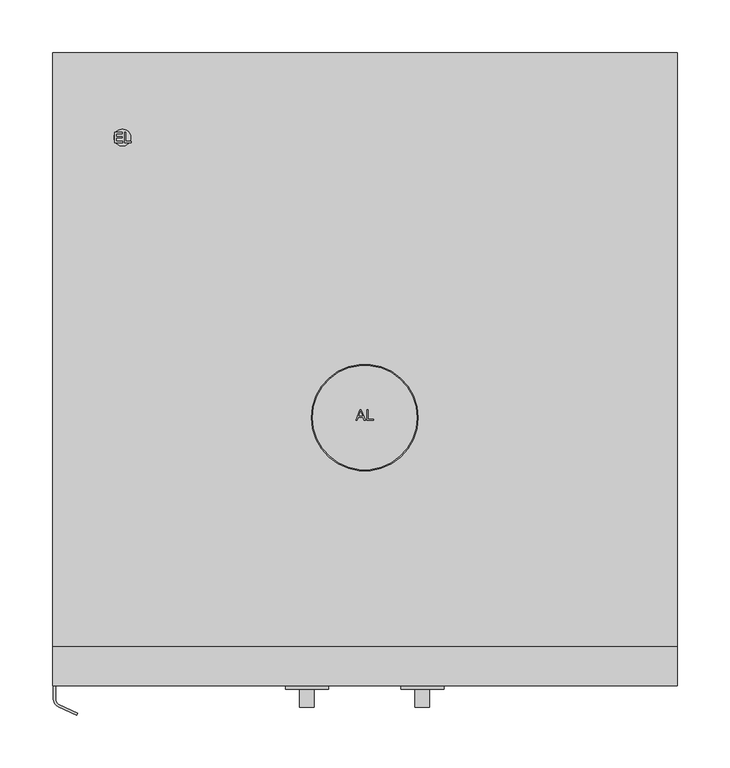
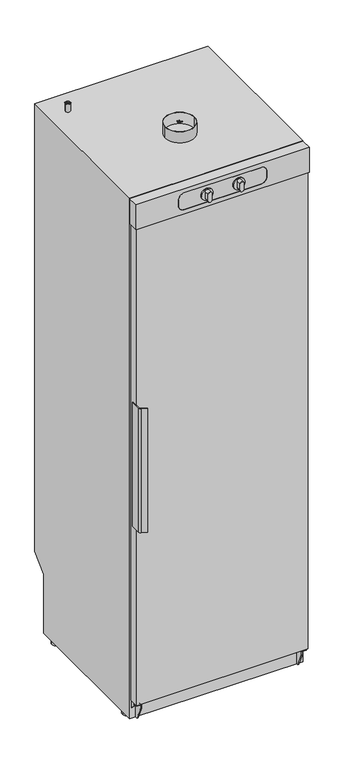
"""IFC4 building model written with IfcOpenShell, lengths in millimetres: proxy geometry, 12173370_EU_EasyDryer1900Extreme : 52190001_EU_12173370_EasyDryer1900Extreme."""

from ifc_helpers import new_model, si_unit, point, frame, frame_2d, origin, origin_with_axes, place, context, project, spatial, polyline, circle_curve, trimmed, segment, composite_curve, outline, extrude, source, transform, mapped, element, save
from ifc_brep_helpers import plane_surface, cylinder_surface, revolved_surface, advanced_brep


def specialty_equipment_527cdb43(model_context):
    return source(origin(), model_context, "Body", "SolidModel", [
        advanced_brep(
        [(297.5, -602.7076068, 1900.064398), (-297.5, -602.7076068, 1900.064398), (-297.5, -602.7076068, 1810.0799917), (297.5, -602.7076068, 1810.0799917), (-132.2999878, -602.7076068, 1885.0721695), (131.7000122, -602.7076068, 1885.0721695), (151.7000122, -602.7076068, 1865.0721695), (151.7000122, -602.7076068, 1845.0722442), (131.7000122, -602.7076068, 1825.0722442), (-132.2999878, -602.7076068, 1825.0722442), (-152.2999878, -602.7076068, 1845.0722442), (-152.2999878, -602.7076068, 1865.0721695), (297.5, -565.0003471, 1900.064398), (297.5, -565.0003471, 1810.0799917), (-297.5, -565.0003471, 1810.0799917), (-297.5, -565.0003471, 1900.064398), (131.7000122, -600.0, 1885.0721695), (-132.2999878, -600.0, 1885.0721695), (-152.2999878, -600.0, 1865.0721695), (-152.2999878, -600.0, 1845.0722442), (-132.2999878, -600.0, 1825.0722442), (131.7000122, -600.0, 1825.0722442), (151.7000122, -600.0, 1845.0722442), (151.7000122, -600.0, 1865.0721695)],
        [
            (0, 1),
            (1, 2),
            (2, 3),
            (3, 0),
            (4, 5),
            (5, 6, circle_curve(frame((131.7000122, -602.7076068, 1865.0721695), z_axis=(0.0, 1.0, 0.0), x_axis=(1.0, 0.0, 0.0)), 20.0)),
            (6, 7),
            (7, 8, circle_curve(frame((131.7000122, -602.7076068, 1845.0722442), z_axis=(0.0, 1.0, 0.0), x_axis=(1.0, 0.0, 0.0)), 20.0)),
            (8, 9),
            (9, 10, circle_curve(frame((-132.2999878, -602.7076068, 1845.0722442), z_axis=(0.0, 1.0, 0.0), x_axis=(1.0, 0.0, 0.0)), 20.0)),
            (10, 11),
            (11, 4, circle_curve(frame((-132.2999878, -602.7076068, 1865.0721695), z_axis=(0.0, 1.0, 0.0), x_axis=(1.0, 0.0, 0.0)), 20.0)),
            (12, 13),
            (13, 14),
            (14, 15),
            (15, 12),
            (0, 12),
            (15, 1),
            (14, 2),
            (13, 3),
            (16, 17),
            (17, 18, circle_curve(frame((-132.2999878, -600.0, 1865.0721695), z_axis=(0.0, -1.0, 0.0), x_axis=(1.0, 0.0, 0.0)), 20.0)),
            (18, 19),
            (19, 20, circle_curve(frame((-132.2999878, -600.0, 1845.0722442), z_axis=(0.0, -1.0, 0.0), x_axis=(1.0, 0.0, 0.0)), 20.0)),
            (20, 21),
            (21, 22, circle_curve(frame((131.7000122, -600.0, 1845.0722442), z_axis=(0.0, -1.0, 0.0), x_axis=(1.0, 0.0, 0.0)), 20.0)),
            (22, 23),
            (23, 16, circle_curve(frame((131.7000122, -600.0, 1865.0721695), z_axis=(0.0, -1.0, 0.0), x_axis=(1.0, 0.0, 0.0)), 20.0)),
            (16, 5),
            (4, 17),
            (11, 18),
            (10, 19),
            (9, 20),
            (8, 21),
            (7, 22),
            (6, 23),
        ],
        [
            plane_surface(frame((-258.8606423, -602.7076068, 1900.064398), z_axis=(0.0, -1.0, 0.0), x_axis=(-1.0, 0.0, 0.0))),
            plane_surface(frame((-258.8606423, -565.0003471, 1900.064398), z_axis=(0.0, 1.0, 0.0), x_axis=(1.0, 0.0, 0.0))),
            plane_surface(frame((297.5, -602.7076068, 1900.064398), z_axis=(0.0, 0.0, 1.0), x_axis=(0.0, 1.0, 0.0))),
            plane_surface(frame((-297.5, -602.7076068, 1900.064398), z_axis=(-1.0, 0.0, 0.0), x_axis=(0.0, 1.0, 0.0))),
            plane_surface(frame((-297.5, -602.7076068, 1810.0799917), z_axis=(0.0, 0.0, -1.0), x_axis=(0.0, 1.0, 0.0))),
            plane_surface(frame((297.5, -602.7076068, 1810.0799917), z_axis=(1.0, 0.0, 0.0), x_axis=(0.0, 1.0, 0.0))),
            plane_surface(frame((-141.7059758, -600.0, 1885.0721695), z_axis=(0.0, -1.0, 0.0), x_axis=(1.0, 0.0, 0.0))),
            plane_surface(frame((131.7000122, -602.7076068, 1885.0721695), z_axis=(0.0, 0.0, -1.0), x_axis=(0.0, 1.0, 0.0))),
            revolved_surface(polyline([(-112.2999878, -602.7076068, 1865.0721695), (-112.2999878, -600.0, 1865.0721695)]), (-132.2999878, -600.0, 1865.0721695), (0.0, -1.0, 0.0)),
            plane_surface(frame((-152.2999878, -602.7076068, 1865.0721695), z_axis=(1.0, 0.0, 0.0), x_axis=(0.0, 1.0, 0.0))),
            revolved_surface(polyline([(-112.2999878, -602.7076068, 1845.0722442), (-112.2999878, -600.0, 1845.0722442)]), (-132.2999878, -600.0, 1845.0722442), (0.0, -1.0, 0.0)),
            plane_surface(frame((-132.2999878, -602.7076068, 1825.0722442), z_axis=(0.0, 0.0, 1.0), x_axis=(0.0, 1.0, 0.0))),
            revolved_surface(polyline([(151.7000122, -602.7076068, 1845.0722442), (151.7000122, -600.0, 1845.0722442)]), (131.7000122, -600.0, 1845.0722442), (0.0, -1.0, 0.0)),
            plane_surface(frame((151.7000122, -602.7076068, 1845.0722442), z_axis=(-1.0, 0.0, 0.0), x_axis=(0.0, 1.0, 0.0))),
            revolved_surface(polyline([(151.7000122, -602.7076068, 1865.0721695), (151.7000122, -600.0, 1865.0721695)]), (131.7000122, -600.0, 1865.0721695), (0.0, -1.0, 0.0)),
        ],
        [
            (0, [[1, 2, 3, 4], [5, 6, 7, 8, 9, 10, 11, 12]]),
            (1, [[13, 14, 15, 16]]),
            (2, [[-1, 17, -16, 18]]),
            (3, [[-2, -18, -15, 19]]),
            (4, [[-3, -19, -14, 20]]),
            (5, [[-4, -20, -13, -17]]),
            (6, [[21, 22, 23, 24, 25, 26, 27, 28]]),
            (7, [[-21, 29, -5, 30]]),
            (8, [[-22, -30, -12, 31]]),
            (9, [[-23, -31, -11, 32]]),
            (10, [[-24, -32, -10, 33]]),
            (11, [[-25, -33, -9, 34]]),
            (12, [[-26, -34, -8, 35]]),
            (13, [[-27, -35, -7, 36]]),
            (14, [[-28, -36, -6, -29]]),
        ],
    ),
        extrude(outline(polyline([(294.0999571, -600.0), (-293.899981, -600.0), (-293.899981, -565.0003471), (294.0999571, -565.0003471), (294.0999571, -600.0)])), frame((0.0, 0.0, 80.0436301), z_axis=(0.0, 0.0, 1.0), x_axis=(1.0, 0.0, 0.0)), (0.0, 0.0, 1.0), 1729.6063473),
        extrude(outline(polyline([(-565.0003471, 1900.9000792), (0.0, 1900.9000792), (0.0, 277.3003376), (-52.1003198, 225.2000178), (-52.1003198, 11.4987492), (-565.0003471, 11.4987492), (-565.0003471, 1900.9000792)])), frame((-297.5, 0.0, 0.0), z_axis=(1.0, 0.0, 0.0), x_axis=(0.0, 1.0, 0.0)), (0.0, 0.0, 1.0), 595.0),
        extrude(outline(composite_curve([segment(trimmed(circle_curve(frame_2d((286.0020523, -589.7003232)), 7.5125776), [point((278.4894747, -589.7003232))], [point((293.5146299, -589.7003232))], False, "CARTESIAN"), True, "CONTINUOUS"), segment(trimmed(circle_curve(frame_2d((286.0020523, -589.7003232)), 7.5125776), [point((293.5146299, -589.7003232))], [point((278.4894747, -589.7003232))], False, "CARTESIAN"), True, "CONTINUOUS")], self_intersect=False)), frame((0.0, 0.0, 76.4449017), z_axis=(0.0, 0.0, 1.0), x_axis=(1.0, 0.0, 0.0)), (0.0, 0.0, 1.0), 3.5987284),
        extrude(outline(polyline([(-238.177238, -85.8998575), (-238.177238, -75.8542265), (-230.9569407, -75.8542265), (-230.9569407, -77.1099303), (-236.9215341, -77.1099303), (-236.9215341, -80.092227), (-231.2708667, -80.092227), (-231.2708667, -81.3479309), (-236.9215341, -81.3479309), (-236.9215341, -84.6441536), (-230.7999777, -84.6441536), (-230.7999777, -85.8998575), (-238.177238, -85.8998575)])), frame((0.0, 0.0, 1930.064398), z_axis=(0.0, 0.0, 1.0), x_axis=(1.0, 0.0, 0.0)), (0.0, 0.0, 1.0), 1.0),
        extrude(outline(polyline([(-228.9164219, -85.8998575), (-228.9164219, -75.8542265), (-227.660718, -75.8542265), (-227.660718, -84.6441536), (-222.6379025, -84.6441536), (-222.6379025, -85.8998575), (-228.9164219, -85.8998575)])), frame((0.0, 0.0, 1930.064398), z_axis=(0.0, 0.0, 1.0), x_axis=(1.0, 0.0, 0.0)), (0.0, 0.0, 1.0), 1.0),
        extrude(outline(composite_curve([segment(trimmed(circle_curve(frame_2d((-230.7999777, -80.8998575)), 8.0), [point((-238.7999777, -80.8998575))], [point((-222.7999777, -80.8998575))], False, "CARTESIAN"), True, "CONTINUOUS"), segment(trimmed(circle_curve(frame_2d((-230.7999777, -80.8998575)), 8.0), [point((-222.7999777, -80.8998575))], [point((-238.7999777, -80.8998575))], False, "CARTESIAN"), True, "CONTINUOUS")], self_intersect=False)), frame((0.0, 0.0, 1900.064398), z_axis=(0.0, 0.0, 1.0), x_axis=(1.0, 0.0, 0.0)), (0.0, 0.0, 1.0), 30.0),
        extrude(outline(polyline([(-8.547125, -350.2211675), (-4.5372113, -340.1755365), (-3.4679009, -340.1755365), (0.5420128, -350.2211675), (-0.7848149, -350.2211675), (-1.9350593, -347.0819078), (-6.0725055, -347.0819078), (-7.2202973, -350.2211675), (-8.547125, -350.2211675)]), holes=[polyline([(-5.6114267, -345.8262039), (-2.3936855, -345.8262039), (-3.2986752, -343.3564895), (-4.0025561, -341.4312404), (-4.6279555, -343.1406654), (-5.6114267, -345.8262039)])]), frame((0.0, 0.0, 1941.7810861), z_axis=(0.0, 0.0, 1.0), x_axis=(1.0, 0.0, 0.0)), (0.0, 0.0, 1.0), 1.0),
        extrude(outline(polyline([(1.8835558, -350.2211675), (1.8835558, -340.1755365), (3.1392597, -340.1755365), (3.1392597, -348.9654636), (8.1620752, -348.9654636), (8.1620752, -350.2211675), (1.8835558, -350.2211675)])), frame((0.0, 0.0, 1941.7810861), z_axis=(0.0, 0.0, 1.0), x_axis=(1.0, 0.0, 0.0)), (0.0, 0.0, 1.0), 1.0),
        extrude(outline(composite_curve([segment(trimmed(circle_curve(frame_2d((0.0, -347.5288095)), 50.6924834), [point((-50.6924834, -347.5288095))], [point((50.6924834, -347.5288095))], False, "CARTESIAN"), True, "CONTINUOUS"), segment(trimmed(circle_curve(frame_2d((0.0, -347.5288095)), 50.6924834), [point((50.6924834, -347.5288095))], [point((-50.6924834, -347.5288095))], False, "CARTESIAN"), True, "CONTINUOUS")], self_intersect=False), holes=[composite_curve([segment(trimmed(circle_curve(frame_2d((0.0, -347.5288095)), 49.6924834), [point((-49.6924834, -347.5288095))], [point((49.6924834, -347.5288095))], True, "CARTESIAN"), True, "CONTINUOUS"), segment(trimmed(circle_curve(frame_2d((0.0, -347.5288095)), 49.6924834), [point((49.6924834, -347.5288095))], [point((-49.6924834, -347.5288095))], True, "CARTESIAN"), True, "CONTINUOUS")], self_intersect=False)]), frame((0.0, 0.0, 1900.064398), z_axis=(0.0, 0.0, 1.0), x_axis=(1.0, 0.0, 0.0)), (0.0, 0.0, 1.0), 41.7166881),
        extrude(outline(composite_curve([segment(trimmed(circle_curve(frame_2d((-575.498868, 69.60773)), 5.496908), [point((-579.4509333, 65.7871047))], [point((-580.995776, 69.60773))], False, "CARTESIAN"), True, "CONTINUOUS"), segment(polyline([(-580.995776, 69.60773), (-580.995776, 73.4499866), (-565.0003471, 73.4499866), (-565.0003471, 50.8487154), (-566.0003471, 50.8487154), (-579.4509333, 65.7871047)]), True, "CONTINUOUS")], self_intersect=False)), frame((288.7000118, 0.0, 0.0), z_axis=(1.0, 0.0, 0.0), x_axis=(0.0, 1.0, 0.0)), (0.0, 0.0, 1.0), 3.0000001),
        extrude(outline(composite_curve([segment(trimmed(circle_curve(frame_2d((-575.498868, 69.60773)), 5.496908), [point((-579.4509333, 65.7871047))], [point((-580.995776, 69.60773))], False, "CARTESIAN"), True, "CONTINUOUS"), segment(polyline([(-580.995776, 69.60773), (-580.995776, 73.4499866), (-565.0003471, 73.4499866), (-565.0003471, 50.8487154), (-566.0003471, 50.8487154), (-579.4509333, 65.7871047)]), True, "CONTINUOUS")], self_intersect=False)), frame((-291.7000119, 0.0, 0.0), z_axis=(1.0, 0.0, 0.0), x_axis=(0.0, 1.0, 0.0)), (0.0, 0.0, 1.0), 3.0000001),
        advanced_brep(
        [(278.236425, -595.4003518, 72.7307477), (279.0342218, -595.4003518, 73.4499866), (291.7734983, -595.4003518, 73.4499866), (291.7734983, -595.4003518, 76.4449017), (279.1678947, -595.4003518, 76.4449017), (275.2000004, -595.4003518, 73.0935621), (275.2000004, -595.4003518, 61.6631548), (278.236425, -595.4003518, 61.6631548), (275.2000004, -565.0003471, 73.0935621), (279.1678947, -565.0003471, 76.4449017), (291.7734983, -565.0003471, 76.4449017), (291.7734983, -565.0003471, 73.4499866), (279.0342218, -565.0003471, 73.4499866), (278.236425, -565.0003471, 72.7307477), (278.236425, -565.0003471, 13.4746147), (275.2000004, -565.0003471, 13.4746147), (278.236425, -574.369835, 13.4746147), (275.2000004, -574.369835, 13.4746147)],
        [
            (0, 1, circle_curve(frame((279.2254887, -595.4003518, 72.4357417), z_axis=(0.0, 1.0, 0.0), x_axis=(-1.0, 0.0, 0.0)), 1.0321219)),
            (1, 2),
            (2, 3),
            (3, 4),
            (4, 5, circle_curve(frame((279.1678947, -595.4003518, 72.4202929), z_axis=(0.0, -1.0, 0.0), x_axis=(-1.0, 0.0, 0.0)), 4.0246089)),
            (5, 6),
            (6, 7),
            (7, 0),
            (8, 9, circle_curve(frame((279.1678947, -565.0003471, 72.4202929), z_axis=(0.0, 1.0, 0.0), x_axis=(-1.0, 0.0, 0.0)), 4.0246089)),
            (9, 10),
            (10, 11),
            (11, 12),
            (12, 13, circle_curve(frame((279.2254887, -565.0003471, 72.4357417), z_axis=(0.0, -1.0, 0.0), x_axis=(-1.0, 0.0, 0.0)), 1.0321219)),
            (13, 14),
            (14, 15),
            (15, 8),
            (4, 9),
            (8, 5),
            (3, 10),
            (2, 11),
            (1, 12),
            (0, 13),
            (7, 16),
            (16, 14),
            (16, 17),
            (17, 15),
            (17, 6),
        ],
        [
            plane_surface(frame((275.2000004, -595.4003518, 13.4746147), z_axis=(0.0, -1.0, 0.0), x_axis=(0.0, 0.0, -1.0))),
            plane_surface(frame((275.2000004, -565.0003471, 13.4746147), z_axis=(0.0, 1.0, 0.0), x_axis=(0.0, 0.0, 1.0))),
            cylinder_surface(frame((279.1678947, -565.0003471, 72.4202929), z_axis=(0.0, -1.0, 0.0), x_axis=(-1.0, 0.0, 0.0)), 4.0246089),
            plane_surface(frame((291.7734983, -595.4003518, 76.4449017), z_axis=(0.0, 0.0, 1.0), x_axis=(0.0, 1.0, 0.0))),
            plane_surface(frame((291.7734983, -595.4003518, 73.4499866), z_axis=(1.0, 0.0, 0.0), x_axis=(0.0, 1.0, 0.0))),
            plane_surface(frame((279.0342218, -595.4003518, 73.4499866), z_axis=(0.0, 0.0, -1.0), x_axis=(0.0, 1.0, 0.0))),
            revolved_surface(polyline([(278.19336680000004, -565.0003471, 72.4357417), (278.19336680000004, -595.4003518, 72.4357417)]), (279.2254887, -565.0003471, 72.4357417), (0.0, 1.0, 0.0)),
            plane_surface(frame((278.236425, -595.4003518, 13.4746147), z_axis=(1.0, 0.0, 0.0), x_axis=(0.0, 1.0, 0.0))),
            plane_surface(frame((275.2000004, -595.4003518, 13.4746147), z_axis=(0.0, 0.0, -1.0), x_axis=(0.0, 1.0, 0.0))),
            plane_surface(frame((275.2000004, -595.4003518, 73.0935621), z_axis=(-1.0, 0.0, 0.0), x_axis=(0.0, 1.0, 0.0))),
            plane_surface(frame((362.4111715, -574.369835, 13.4746147), z_axis=(0.0, -0.9165199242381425, -0.39998903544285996), x_axis=(-1.0, 0.0, 0.0))),
        ],
        [
            (0, [[1, 2, 3, 4, 5, 6, 7, 8]]),
            (1, [[9, 10, 11, 12, 13, 14, 15, 16]]),
            (2, [[-5, 17, -9, 18]]),
            (3, [[-4, 19, -10, -17]]),
            (4, [[-3, 20, -11, -19]]),
            (5, [[-2, 21, -12, -20]]),
            (6, [[-1, 22, -13, -21]]),
            (7, [[-14, -22, -8, 23, 24]]),
            (8, [[-15, -24, 25, 26]]),
            (9, [[-16, -26, 27, -6, -18]]),
            (10, [[-7, -27, -25, -23]]),
        ],
    ),
        advanced_brep(
        [(-275.2000004, -595.4003518, 73.0935621), (-279.1678947, -595.4003518, 76.4449017), (-291.7734983, -595.4003518, 76.4449017), (-291.7734983, -595.4003518, 73.4499866), (-279.0342218, -595.4003518, 73.4499866), (-278.236425, -595.4003518, 72.7307477), (-278.236425, -595.4003518, 61.6631548), (-275.2000004, -595.4003518, 61.6631548), (-275.2000004, -565.0003471, 73.0935621), (-275.2000004, -565.0003471, 13.4746147), (-278.236425, -565.0003471, 13.4746147), (-278.236425, -565.0003471, 72.7307477), (-279.0342218, -565.0003471, 73.4499866), (-291.7734983, -565.0003471, 73.4499866), (-291.7734983, -565.0003471, 76.4449017), (-279.1678947, -565.0003471, 76.4449017), (-278.236425, -574.369835, 13.4746147), (-275.2000004, -574.369835, 13.4746147)],
        [
            (0, 1, circle_curve(frame((-279.1678947, -595.4003518, 72.4202929), z_axis=(0.0, -1.0, 0.0), x_axis=(1.0, 0.0, 0.0)), 4.0246089)),
            (1, 2),
            (2, 3),
            (3, 4),
            (4, 5, circle_curve(frame((-279.2254887, -595.4003518, 72.4357417), z_axis=(0.0, 1.0, 0.0), x_axis=(1.0, 0.0, 0.0)), 1.0321219)),
            (5, 6),
            (6, 7),
            (7, 0),
            (8, 9),
            (9, 10),
            (10, 11),
            (11, 12, circle_curve(frame((-279.2254887, -565.0003471, 72.4357417), z_axis=(0.0, -1.0, 0.0), x_axis=(1.0, 0.0, 0.0)), 1.0321219)),
            (12, 13),
            (13, 14),
            (14, 15),
            (15, 8, circle_curve(frame((-279.1678947, -565.0003471, 72.4202929), z_axis=(0.0, 1.0, 0.0), x_axis=(1.0, 0.0, 0.0)), 4.0246089)),
            (0, 8),
            (15, 1),
            (14, 2),
            (13, 3),
            (12, 4),
            (11, 5),
            (10, 16),
            (16, 6),
            (9, 17),
            (17, 16),
            (7, 17),
        ],
        [
            plane_surface(frame((-275.1432858, -595.4003518, 72.4202929), z_axis=(0.0, -1.0, 0.0), x_axis=(0.0, 0.0, 1.0))),
            plane_surface(frame((-275.1432858, -565.0003471, 72.4202929), z_axis=(0.0, 1.0, 0.0), x_axis=(0.0, 0.0, -1.0))),
            cylinder_surface(frame((-279.1678947, -565.0003471, 72.4202929), z_axis=(0.0, -1.0, 0.0), x_axis=(1.0, 0.0, 0.0)), 4.0246089),
            plane_surface(frame((-279.1678947, -595.4003518, 76.4449017), z_axis=(0.0, 0.0, 1.0), x_axis=(0.0, 1.0, 0.0))),
            plane_surface(frame((-291.7734983, -595.4003518, 76.4449017), z_axis=(-1.0, 0.0, 0.0), x_axis=(0.0, 1.0, 0.0))),
            plane_surface(frame((-291.7734983, -595.4003518, 73.4499866), z_axis=(0.0, 0.0, -1.0), x_axis=(0.0, 1.0, 0.0))),
            revolved_surface(polyline([(-278.19336680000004, -565.0003471, 72.4357417), (-278.19336680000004, -595.4003518, 72.4357417)]), (-279.2254887, -565.0003471, 72.4357417), (0.0, 1.0, 0.0)),
            plane_surface(frame((-278.236425, -595.4003518, 72.7307477), z_axis=(-1.0, 0.0, 0.0), x_axis=(0.0, 1.0, 0.0))),
            plane_surface(frame((-278.236425, -595.4003518, 13.4746147), z_axis=(0.0, 0.0, -1.0), x_axis=(0.0, 1.0, 0.0))),
            plane_surface(frame((-275.2000004, -595.4003518, 13.4746147), z_axis=(1.0, 0.0, 0.0), x_axis=(0.0, 1.0, 0.0))),
            plane_surface(frame((362.4111715, -574.369835, 13.4746147), z_axis=(0.0, -0.9165199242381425, -0.39998903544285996), x_axis=(-1.0, 0.0, 0.0))),
        ],
        [
            (0, [[1, 2, 3, 4, 5, 6, 7, 8]]),
            (1, [[9, 10, 11, 12, 13, 14, 15, 16]]),
            (2, [[-1, 17, -16, 18]]),
            (3, [[-2, -18, -15, 19]]),
            (4, [[-3, -19, -14, 20]]),
            (5, [[-4, -20, -13, 21]]),
            (6, [[-5, -21, -12, 22]]),
            (7, [[-11, 23, 24, -6, -22]]),
            (8, [[-10, 25, 26, -23]]),
            (9, [[-9, -17, -8, 27, -25]]),
            (10, [[-7, -24, -26, -27]]),
        ],
    ),
        extrude(outline(composite_curve([segment(trimmed(circle_curve(frame_2d((-288.0620028, -615.0445034)), 8.54191), [point((-292.0378687, -622.6047096))], [point((-296.599976, -615.3038118))], False, "CARTESIAN"), True, "CONTINUOUS"), segment(polyline([(-296.599976, -615.3038118), (-296.599976, -580.8005696), (-294.5999754, -580.8005696), (-294.5999754, -615.3038118)]), True, "CONTINUOUS"), segment(trimmed(circle_curve(frame_2d((-288.5999994, -615.3207979)), 6.0), [point((-294.5999754, -615.3038118))], [point((-291.080415, -620.7840879))], True, "CARTESIAN"), True, "CONTINUOUS"), segment(polyline([(-291.080415, -620.7840879), (-273.5336223, -628.8886196), (-274.3950241, -630.7536058), (-292.0378687, -622.6047096)]), True, "CONTINUOUS")], self_intersect=False)), frame((0.0, 0.0, 719.8499994), z_axis=(0.0, 0.0, 1.0), x_axis=(1.0, 0.0, 0.0)), (0.0, 0.0, 1.0), 450.0000166),
        extrude(outline(composite_curve([segment(polyline([(1867.9969412, -62.1834855), (1844.4463, -62.1834855)]), True, "CONTINUOUS"), segment(trimmed(circle_curve(frame_2d((1844.4463, -55.2735406)), 6.9099449), [point((1844.4463, -62.1834855))], [point((1844.4463, -48.3635957))], False, "CARTESIAN"), True, "CONTINUOUS"), segment(polyline([(1844.4463, -48.3635957), (1867.9969412, -48.3635957)]), True, "CONTINUOUS"), segment(trimmed(circle_curve(frame_2d((1865.5091206, -55.2735406)), 7.3441534), [point((1867.9969412, -48.3635957))], [point((1867.9969412, -62.1834855))], False, "CARTESIAN"), True, "CONTINUOUS")], self_intersect=False)), frame((0.0, -623.2499817, 0.0), z_axis=(0.0, 1.0, 0.0), x_axis=(0.0, 0.0, 1.0)), (0.0, 0.0, 1.0), 17.0063971),
        extrude(outline(composite_curve([segment(trimmed(circle_curve(frame_2d((1865.5091206, 54.7486698)), 7.3441534), [point((1867.9969412, 61.6586147))], [point((1867.9969412, 47.8387249))], False, "CARTESIAN"), True, "CONTINUOUS"), segment(polyline([(1867.9969412, 47.8387249), (1844.4463, 47.8387249)]), True, "CONTINUOUS"), segment(trimmed(circle_curve(frame_2d((1844.4463, 54.7486698)), 6.9099449), [point((1844.4463, 47.8387249))], [point((1844.4463, 61.6586147))], False, "CARTESIAN"), True, "CONTINUOUS"), segment(polyline([(1844.4463, 61.6586147), (1867.9969412, 61.6586147)]), True, "CONTINUOUS")], self_intersect=False)), frame((0.0, -623.2499817, 0.0), z_axis=(0.0, 1.0, 0.0), x_axis=(0.0, 0.0, 1.0)), (0.0, 0.0, 1.0), 17.0063971),
        extrude(outline(composite_curve([segment(trimmed(circle_curve(frame_2d((1855.0722068, -55.0565796)), 20.5), [point((1855.0722068, -75.5565796))], [point((1855.0722068, -34.5565796))], False, "CARTESIAN"), True, "CONTINUOUS"), segment(trimmed(circle_curve(frame_2d((1855.0722068, -55.0565796)), 20.5), [point((1855.0722068, -34.5565796))], [point((1855.0722068, -75.5565796))], False, "CARTESIAN"), True, "CONTINUOUS")], self_intersect=False)), frame((0.0, -606.2435846, 0.0), z_axis=(0.0, 1.0, 0.0), x_axis=(0.0, 0.0, 1.0)), (0.0, 0.0, 1.0), 3.5359778),
        extrude(outline(composite_curve([segment(trimmed(circle_curve(frame_2d((1855.0722068, 54.8206173)), 20.5), [point((1855.0722068, 34.3206173))], [point((1855.0722068, 75.3206173))], False, "CARTESIAN"), True, "CONTINUOUS"), segment(trimmed(circle_curve(frame_2d((1855.0722068, 54.8206173)), 20.5), [point((1855.0722068, 75.3206173))], [point((1855.0722068, 34.3206173))], False, "CARTESIAN"), True, "CONTINUOUS")], self_intersect=False)), frame((0.0, -606.2435846, 0.0), z_axis=(0.0, 1.0, 0.0), x_axis=(0.0, 0.0, 1.0)), (0.0, 0.0, 1.0), 3.5359778),
        extrude(outline(composite_curve([segment(polyline([(1885.0721695, 131.7000122), (1885.0721695, -132.2999878)]), True, "CONTINUOUS"), segment(trimmed(circle_curve(frame_2d((1865.0721695, -132.2999878)), 20.0), [point((1885.0721695, -132.2999878))], [point((1865.0721695, -152.2999878))], False, "CARTESIAN"), True, "CONTINUOUS"), segment(polyline([(1865.0721695, -152.2999878), (1845.0722442, -152.2999878)]), True, "CONTINUOUS"), segment(trimmed(circle_curve(frame_2d((1845.0722442, -132.2999878)), 20.0), [point((1845.0722442, -152.2999878))], [point((1825.0722442, -132.2999878))], False, "CARTESIAN"), True, "CONTINUOUS"), segment(polyline([(1825.0722442, -132.2999878), (1825.0722442, 131.7000122)]), True, "CONTINUOUS"), segment(trimmed(circle_curve(frame_2d((1845.0722442, 131.7000122)), 20.0), [point((1825.0722442, 131.7000122))], [point((1845.0722442, 151.7000122))], False, "CARTESIAN"), True, "CONTINUOUS"), segment(polyline([(1845.0722442, 151.7000122), (1865.0721695, 151.7000122)]), True, "CONTINUOUS"), segment(trimmed(circle_curve(frame_2d((1865.0721695, 131.7000122)), 20.0), [point((1865.0721695, 151.7000122))], [point((1885.0721695, 131.7000122))], False, "CARTESIAN"), True, "CONTINUOUS")], self_intersect=False)), frame((0.0, -602.7076068, 0.0), z_axis=(0.0, 1.0, 0.0), x_axis=(0.0, 0.0, 1.0)), (0.0, 0.0, 1.0), 2.7076068),
        extrude(outline(composite_curve([segment(trimmed(circle_curve(frame_2d((-280.6000352, -99.5003193)), 16.3332249), [point((-296.9332601, -99.5003193))], [point((-264.2668104, -99.5003193))], False, "CARTESIAN"), True, "CONTINUOUS"), segment(trimmed(circle_curve(frame_2d((-280.6000352, -99.5003193)), 16.3332249), [point((-264.2668104, -99.5003193))], [point((-296.9332601, -99.5003193))], False, "CARTESIAN"), True, "CONTINUOUS")], self_intersect=False)), origin_with_axes(), (0.0, 0.0, 1.0), 11.4987492),
        extrude(outline(composite_curve([segment(trimmed(circle_curve(frame_2d((280.0000016, -99.5003193)), 15.7832585), [point((264.2167431, -99.5003193))], [point((295.7832602, -99.5003193))], False, "CARTESIAN"), True, "CONTINUOUS"), segment(trimmed(circle_curve(frame_2d((280.0000016, -99.5003193)), 15.7832585), [point((295.7832602, -99.5003193))], [point((264.2167431, -99.5003193))], False, "CARTESIAN"), True, "CONTINUOUS")], self_intersect=False)), origin_with_axes(), (0.0, 0.0, 1.0), 11.4987492),
        extrude(outline(composite_curve([segment(trimmed(circle_curve(frame_2d((280.0000016, -519.500333)), 15.8157113), [point((264.1842903, -519.500333))], [point((295.815713, -519.500333))], False, "CARTESIAN"), True, "CONTINUOUS"), segment(trimmed(circle_curve(frame_2d((280.0000016, -519.500333)), 15.8157113), [point((295.815713, -519.500333))], [point((264.1842903, -519.500333))], False, "CARTESIAN"), True, "CONTINUOUS")], self_intersect=False)), origin_with_axes(), (0.0, 0.0, 1.0), 11.4987492),
        extrude(outline(composite_curve([segment(trimmed(circle_curve(frame_2d((-280.6000352, -519.500333)), 16.1285842), [point((-296.7286194, -519.500333))], [point((-264.471451, -519.500333))], False, "CARTESIAN"), True, "CONTINUOUS"), segment(trimmed(circle_curve(frame_2d((-280.6000352, -519.500333)), 16.1285842), [point((-264.471451, -519.500333))], [point((-296.7286194, -519.500333))], False, "CARTESIAN"), True, "CONTINUOUS")], self_intersect=False)), origin_with_axes(), (0.0, 0.0, 1.0), 11.4987492),
    ])


if __name__ == "__main__":
    model = new_model("IFC4")
    model_context = context("Model", 3, world=origin())
    ifc_project = project(units=[si_unit("LENGTHUNIT", "METRE", prefix="MILLI")], contexts=[model_context])
    site = spatial("IfcSite", under=ifc_project)
    building = spatial("IfcBuilding", under=site)
    placement = place(None, origin())
    specialty_equipment_shape = specialty_equipment_527cdb43(model_context)
    element("IfcBuildingElementProxy", 1, Name="12173370_EU_EasyDryer1900Extreme : 52190001_EU_12173370_EasyDryer1900Extreme", ObjectType="12173370_EU_EasyDryer1900Extreme : 52190001_EU_12173370_EasyDryer1900Extreme", at=placement, inside=building, context=model_context, shape_type="MappedRepresentation", body=[
        mapped(specialty_equipment_shape, transform((0.0, 0.0, 0.0), x_axis=(1.0, 0.0, 0.0), y_axis=(0.0, 1.0, 0.0), z_axis=(0.0, 0.0, 1.0))),
    ])
    save(model, "model.ifc")
